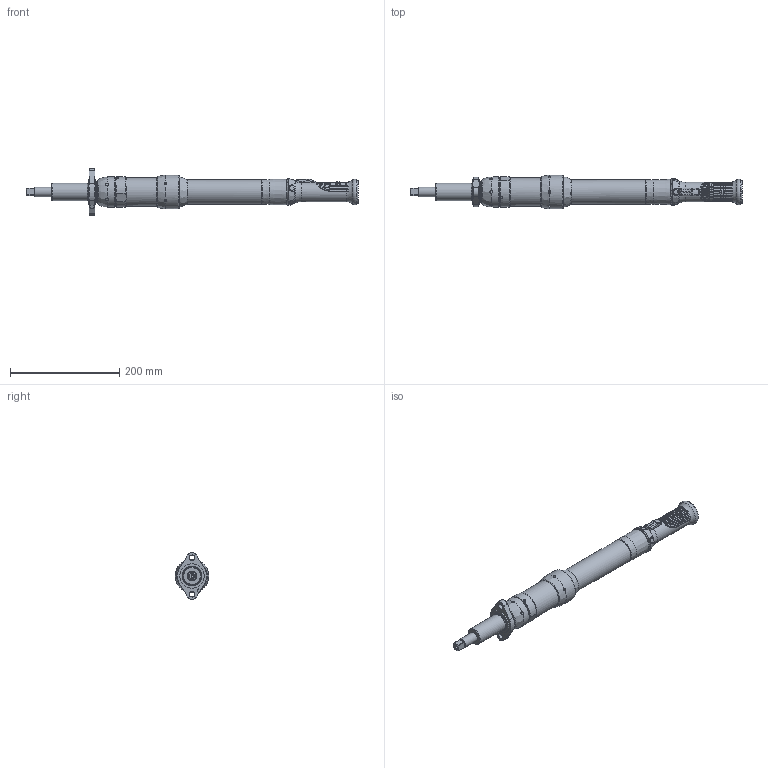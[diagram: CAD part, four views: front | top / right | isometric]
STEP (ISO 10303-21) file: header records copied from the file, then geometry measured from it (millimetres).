
FILE_DESCRIPTION(/* description */ (''),/* implementation_level */ '2;1');
FILE_NAME(/* name */ '10559656_A_SH04_STEP',/* time_stamp */ '2005-11-28T19:35:34+05:00',/* author */ (''),/* organization */ (''),/* preprocessor_version */ 'ST-DEVELOPER v9',/* originating_system */ 'EDS PLM SOLUTIONS - UNIGRAPHICS NX 2.0',/* authorisation */ '');
FILE_SCHEMA (('CONFIG_CONTROL_DESIGN'));
Products named in the file (1): lgb54ACnsxy
Bounding box: 608.19 x 61.09 x 85.7 mm (x, y, z)
Volume: 926194.3 mm3; surface area: 95057.7 mm2
Topology: 1 solids, 1 shells, 983 faces, 2737 edges, 1801 vertices
Faces by surface type: bspline 499, cylinder 222, cone 100, plane 99, torus 48, extrusion 14, sphere 1
Full cylindrical faces by diameter (mm): 4.394 x1, 4.826 x1, 4.978 x12, 5.563 x1, 6.731 x1, 8.738 x1, 10.401 x2, 17.456 x1, 31.75 x1, 36.068 x1, 41.758 x1, 42.672 x1, 44.45 x3, 47.219 x1, 48.514 x1, 52.349 x1, 52.502 x1, 54.864 x1, 55.118 x1, 61.087 x1
Entity records: 252720 total; most frequent: CARTESIAN_POINT 232456, ORIENTED_EDGE 5234, EDGE_CURVE 2617, DIRECTION 2446, VERTEX_POINT 1756, B_SPLINE_CURVE_WITH_KNOTS 1707, EDGE_LOOP 1108, AXIS2_PLACEMENT_3D 1043
